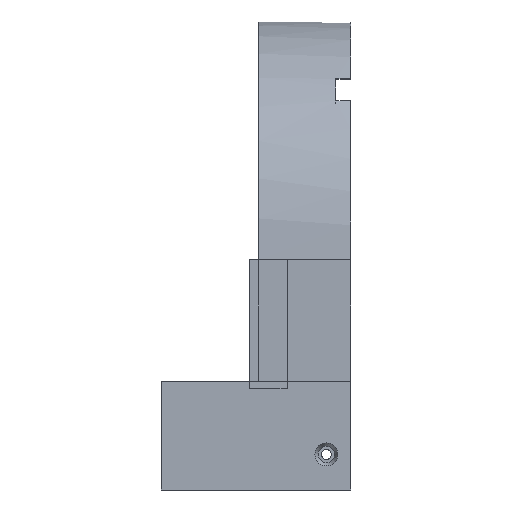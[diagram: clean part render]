
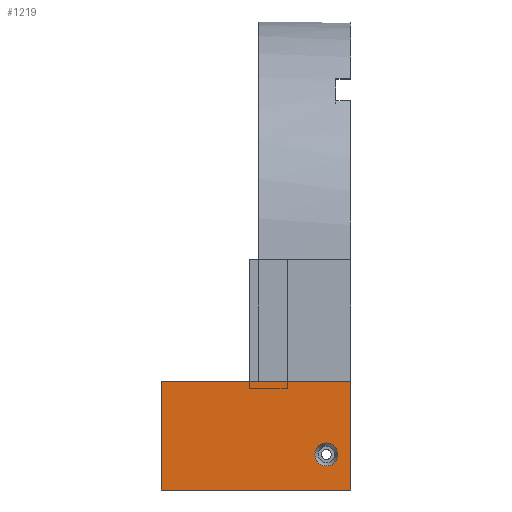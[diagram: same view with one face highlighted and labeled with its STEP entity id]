
A CAD part, front view. The second image highlights one B-rep face of the part: STEP entity #1219.
In plain terms, the highlighted planar face has unit normal (0, -1, 0).
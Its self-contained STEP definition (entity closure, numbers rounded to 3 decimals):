
#1103 = EDGE_CURVE('',#1104,#1106,#1108,.T.);
#1104 = VERTEX_POINT('',#1105);
#1105 = CARTESIAN_POINT('',(37.95,0.25,1.25));
#1106 = VERTEX_POINT('',#1107);
#1107 = CARTESIAN_POINT('',(37.95,0.25,15.75));
#1108 = SURFACE_CURVE('',#1109,(#1113,#1125),.PCURVE_S1.);
#1109 = LINE('',#1110,#1111);
#1110 = CARTESIAN_POINT('',(37.95,0.25,1.25));
#1111 = VECTOR('',#1112,1.);
#1112 = DIRECTION('',(0.,0.,1.));
#1113 = PCURVE('',#1114,#1119);
#1114 = PLANE('',#1115);
#1115 = AXIS2_PLACEMENT_3D('',#1116,#1117,#1118);
#1116 = CARTESIAN_POINT('',(37.95,0.25,1.25));
#1117 = DIRECTION('',(1.,0.,0.));
#1118 = DIRECTION('',(0.,0.,1.));
#1119 = DEFINITIONAL_REPRESENTATION('',(#1120),#1124);
#1120 = LINE('',#1121,#1122);
#1121 = CARTESIAN_POINT('',(0.,0.));
#1122 = VECTOR('',#1123,1.);
#1123 = DIRECTION('',(1.,0.));
#1124 = ( GEOMETRIC_REPRESENTATION_CONTEXT(2) 
PARAMETRIC_REPRESENTATION_CONTEXT() REPRESENTATION_CONTEXT('2D SPACE',''
  ) );
#1125 = PCURVE('',#1126,#1131);
#1126 = PLANE('',#1127);
#1127 = AXIS2_PLACEMENT_3D('',#1128,#1129,#1130);
#1128 = CARTESIAN_POINT('',(37.95,0.25,1.25));
#1129 = DIRECTION('',(0.,1.,0.));
#1130 = DIRECTION('',(0.,0.,1.));
#1131 = DEFINITIONAL_REPRESENTATION('',(#1132),#1136);
#1132 = LINE('',#1133,#1134);
#1133 = CARTESIAN_POINT('',(0.,0.));
#1134 = VECTOR('',#1135,1.);
#1135 = DIRECTION('',(1.,0.));
#1136 = ( GEOMETRIC_REPRESENTATION_CONTEXT(2) 
PARAMETRIC_REPRESENTATION_CONTEXT() REPRESENTATION_CONTEXT('2D SPACE',''
  ) );
#1154 = PLANE('',#1155);
#1155 = AXIS2_PLACEMENT_3D('',#1156,#1157,#1158);
#1156 = CARTESIAN_POINT('',(37.95,0.25,1.25));
#1157 = DIRECTION('',(0.,0.,1.));
#1158 = DIRECTION('',(1.,0.,0.));
#1208 = PLANE('',#1209);
#1209 = AXIS2_PLACEMENT_3D('',#1210,#1211,#1212);
#1210 = CARTESIAN_POINT('',(37.95,0.25,15.75));
#1211 = DIRECTION('',(0.,0.,1.));
#1212 = DIRECTION('',(1.,0.,0.));
#1219 = ADVANCED_FACE('',(#1220,#1295),#1126,.F.);
#1220 = FACE_BOUND('',#1221,.F.);
#1221 = EDGE_LOOP('',(#1222,#1245,#1246,#1269));
#1222 = ORIENTED_EDGE('',*,*,#1223,.F.);
#1223 = EDGE_CURVE('',#1104,#1224,#1226,.T.);
#1224 = VERTEX_POINT('',#1225);
#1225 = CARTESIAN_POINT('',(63.25,0.25,1.25));
#1226 = SURFACE_CURVE('',#1227,(#1231,#1238),.PCURVE_S1.);
#1227 = LINE('',#1228,#1229);
#1228 = CARTESIAN_POINT('',(37.95,0.25,1.25));
#1229 = VECTOR('',#1230,1.);
#1230 = DIRECTION('',(1.,0.,0.));
#1231 = PCURVE('',#1126,#1232);
#1232 = DEFINITIONAL_REPRESENTATION('',(#1233),#1237);
#1233 = LINE('',#1234,#1235);
#1234 = CARTESIAN_POINT('',(0.,0.));
#1235 = VECTOR('',#1236,1.);
#1236 = DIRECTION('',(0.,1.));
#1237 = ( GEOMETRIC_REPRESENTATION_CONTEXT(2) 
PARAMETRIC_REPRESENTATION_CONTEXT() REPRESENTATION_CONTEXT('2D SPACE',''
  ) );
#1238 = PCURVE('',#1154,#1239);
#1239 = DEFINITIONAL_REPRESENTATION('',(#1240),#1244);
#1240 = LINE('',#1241,#1242);
#1241 = CARTESIAN_POINT('',(0.,0.));
#1242 = VECTOR('',#1243,1.);
#1243 = DIRECTION('',(1.,0.));
#1244 = ( GEOMETRIC_REPRESENTATION_CONTEXT(2) 
PARAMETRIC_REPRESENTATION_CONTEXT() REPRESENTATION_CONTEXT('2D SPACE',''
  ) );
#1245 = ORIENTED_EDGE('',*,*,#1103,.T.);
#1246 = ORIENTED_EDGE('',*,*,#1247,.T.);
#1247 = EDGE_CURVE('',#1106,#1248,#1250,.T.);
#1248 = VERTEX_POINT('',#1249);
#1249 = CARTESIAN_POINT('',(63.25,0.25,15.75));
#1250 = SURFACE_CURVE('',#1251,(#1255,#1262),.PCURVE_S1.);
#1251 = LINE('',#1252,#1253);
#1252 = CARTESIAN_POINT('',(37.95,0.25,15.75));
#1253 = VECTOR('',#1254,1.);
#1254 = DIRECTION('',(1.,0.,0.));
#1255 = PCURVE('',#1126,#1256);
#1256 = DEFINITIONAL_REPRESENTATION('',(#1257),#1261);
#1257 = LINE('',#1258,#1259);
#1258 = CARTESIAN_POINT('',(14.5,0.));
#1259 = VECTOR('',#1260,1.);
#1260 = DIRECTION('',(0.,1.));
#1261 = ( GEOMETRIC_REPRESENTATION_CONTEXT(2) 
PARAMETRIC_REPRESENTATION_CONTEXT() REPRESENTATION_CONTEXT('2D SPACE',''
  ) );
#1262 = PCURVE('',#1208,#1263);
#1263 = DEFINITIONAL_REPRESENTATION('',(#1264),#1268);
#1264 = LINE('',#1265,#1266);
#1265 = CARTESIAN_POINT('',(0.,0.));
#1266 = VECTOR('',#1267,1.);
#1267 = DIRECTION('',(1.,0.));
#1268 = ( GEOMETRIC_REPRESENTATION_CONTEXT(2) 
PARAMETRIC_REPRESENTATION_CONTEXT() REPRESENTATION_CONTEXT('2D SPACE',''
  ) );
#1269 = ORIENTED_EDGE('',*,*,#1270,.F.);
#1270 = EDGE_CURVE('',#1224,#1248,#1271,.T.);
#1271 = SURFACE_CURVE('',#1272,(#1276,#1283),.PCURVE_S1.);
#1272 = LINE('',#1273,#1274);
#1273 = CARTESIAN_POINT('',(63.25,0.25,1.25));
#1274 = VECTOR('',#1275,1.);
#1275 = DIRECTION('',(0.,0.,1.));
#1276 = PCURVE('',#1126,#1277);
#1277 = DEFINITIONAL_REPRESENTATION('',(#1278),#1282);
#1278 = LINE('',#1279,#1280);
#1279 = CARTESIAN_POINT('',(0.,25.3));
#1280 = VECTOR('',#1281,1.);
#1281 = DIRECTION('',(1.,0.));
#1282 = ( GEOMETRIC_REPRESENTATION_CONTEXT(2) 
PARAMETRIC_REPRESENTATION_CONTEXT() REPRESENTATION_CONTEXT('2D SPACE',''
  ) );
#1283 = PCURVE('',#1284,#1289);
#1284 = PLANE('',#1285);
#1285 = AXIS2_PLACEMENT_3D('',#1286,#1287,#1288);
#1286 = CARTESIAN_POINT('',(63.25,0.25,1.25));
#1287 = DIRECTION('',(1.,0.,0.));
#1288 = DIRECTION('',(0.,0.,1.));
#1289 = DEFINITIONAL_REPRESENTATION('',(#1290),#1294);
#1290 = LINE('',#1291,#1292);
#1291 = CARTESIAN_POINT('',(0.,0.));
#1292 = VECTOR('',#1293,1.);
#1293 = DIRECTION('',(1.,0.));
#1294 = ( GEOMETRIC_REPRESENTATION_CONTEXT(2) 
PARAMETRIC_REPRESENTATION_CONTEXT() REPRESENTATION_CONTEXT('2D SPACE',''
  ) );
#1295 = FACE_BOUND('',#1296,.F.);
#1296 = EDGE_LOOP('',(#1297));
#1297 = ORIENTED_EDGE('',*,*,#1298,.T.);
#1298 = EDGE_CURVE('',#1299,#1299,#1301,.T.);
#1299 = VERTEX_POINT('',#1300);
#1300 = CARTESIAN_POINT('',(58.465,0.25,6.));
#1301 = SURFACE_CURVE('',#1302,(#1307,#1318),.PCURVE_S1.);
#1302 = CIRCLE('',#1303,1.535);
#1303 = AXIS2_PLACEMENT_3D('',#1304,#1305,#1306);
#1304 = CARTESIAN_POINT('',(60.,0.25,6.));
#1305 = DIRECTION('',(0.,-1.,0.));
#1306 = DIRECTION('',(-1.,-0.,0.));
#1307 = PCURVE('',#1126,#1308);
#1308 = DEFINITIONAL_REPRESENTATION('',(#1309),#1317);
#1309 = ( BOUNDED_CURVE() B_SPLINE_CURVE(2,(#1310,#1311,#1312,#1313,
#1314,#1315,#1316),.UNSPECIFIED.,.F.,.F.) B_SPLINE_CURVE_WITH_KNOTS((1,2
    ,2,2,2,1),(-2.094,0.,2.094,4.189,
6.283,8.378),.UNSPECIFIED.) CURVE() 
GEOMETRIC_REPRESENTATION_ITEM() RATIONAL_B_SPLINE_CURVE((1.,0.5,1.,0.5,
1.,0.5,1.)) REPRESENTATION_ITEM('') );
#1310 = CARTESIAN_POINT('',(4.75,20.515));
#1311 = CARTESIAN_POINT('',(2.091,20.515));
#1312 = CARTESIAN_POINT('',(3.42,22.818));
#1313 = CARTESIAN_POINT('',(4.75,25.121));
#1314 = CARTESIAN_POINT('',(6.08,22.818));
#1315 = CARTESIAN_POINT('',(7.409,20.515));
#1316 = CARTESIAN_POINT('',(4.75,20.515));
#1317 = ( GEOMETRIC_REPRESENTATION_CONTEXT(2) 
PARAMETRIC_REPRESENTATION_CONTEXT() REPRESENTATION_CONTEXT('2D SPACE',''
  ) );
#1318 = PCURVE('',#1319,#1324);
#1319 = CONICAL_SURFACE('',#1320,1.1,0.43);
#1320 = AXIS2_PLACEMENT_3D('',#1321,#1322,#1323);
#1321 = CARTESIAN_POINT('',(60.,1.2,6.));
#1322 = DIRECTION('',(0.,-1.,0.));
#1323 = DIRECTION('',(-1.,0.,0.));
#1324 = DEFINITIONAL_REPRESENTATION('',(#1325),#1329);
#1325 = LINE('',#1326,#1327);
#1326 = CARTESIAN_POINT('',(0.,0.95));
#1327 = VECTOR('',#1328,1.);
#1328 = DIRECTION('',(1.,0.));
#1329 = ( GEOMETRIC_REPRESENTATION_CONTEXT(2) 
PARAMETRIC_REPRESENTATION_CONTEXT() REPRESENTATION_CONTEXT('2D SPACE',''
  ) );
